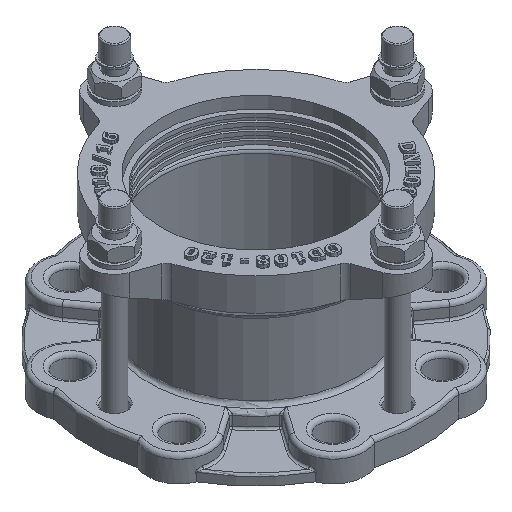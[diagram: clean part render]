
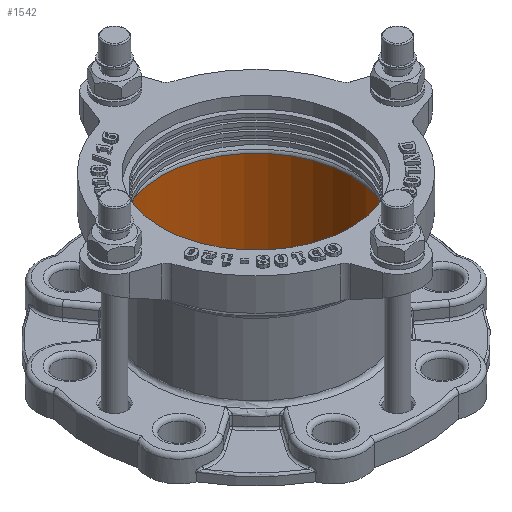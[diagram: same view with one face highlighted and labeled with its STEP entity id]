
A CAD part, isometric view. The second image highlights one B-rep face of the part: STEP entity #1542.
In plain terms, the highlighted cylindrical face has radius 60 mm (diameter 120 mm), a full revolution.
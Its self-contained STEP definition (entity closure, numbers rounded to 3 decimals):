
#1542=ADVANCED_FACE('',(#10212,#10214),#10216,.F.);
#10212=FACE_OUTER_BOUND('',#10213,.T.);
#10213=EDGE_LOOP('',(#15560));
#10214=FACE_OUTER_BOUND('',#10215,.T.);
#10215=EDGE_LOOP('',(#15561));
#10216=CYLINDRICAL_SURFACE('',#10217,60.);
#10217=AXIS2_PLACEMENT_3D('',#10218,#10219,#10220);
#10218=CARTESIAN_POINT('',(0.,0.,3.));
#10219=DIRECTION('',(0.,0.,1.));
#10220=DIRECTION('',(-1.,0.,0.));
#15560=ORIENTED_EDGE('',*,*,#20079,.F.);
#15561=ORIENTED_EDGE('',*,*,#20080,.T.);
#20079=EDGE_CURVE('',#22662,#22662,#22663,.T.);
#20080=EDGE_CURVE('',#22664,#22664,#22665,.F.);
#22662=VERTEX_POINT('',#31599);
#22663=CIRCLE('',#31600,60.);
#22664=VERTEX_POINT('',#31604);
#22665=CIRCLE('',#31605,60.);
#31599=CARTESIAN_POINT('',(0.,60.,68.75));
#31600=AXIS2_PLACEMENT_3D('',#31601,#31602,#31603);
#31601=CARTESIAN_POINT('',(0.,0.,68.75));
#31602=DIRECTION('',(0.,0.,-1.));
#31603=DIRECTION('',(0.,1.,0.));
#31604=CARTESIAN_POINT('',(0.,60.,5.5));
#31605=AXIS2_PLACEMENT_3D('',#31606,#31607,#31608);
#31606=CARTESIAN_POINT('',(0.,0.,5.5));
#31607=DIRECTION('',(0.,0.,1.));
#31608=DIRECTION('',(0.,1.,0.));
